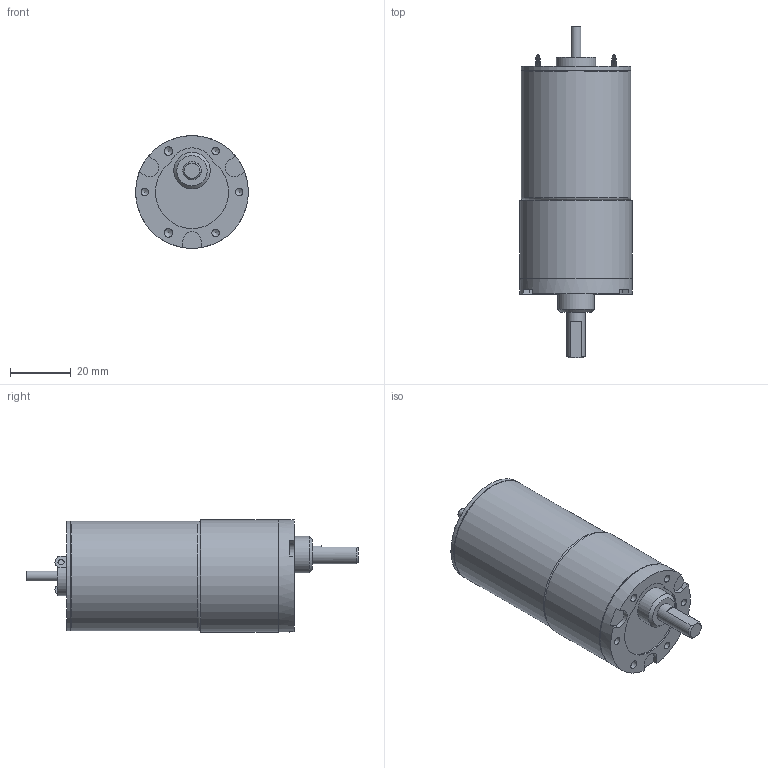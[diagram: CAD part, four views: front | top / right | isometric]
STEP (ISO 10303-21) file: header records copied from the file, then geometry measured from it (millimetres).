
FILE_DESCRIPTION((''),'2;1');
FILE_NAME('C:\Documents and Settings\SSEGAWA\デスクトップ\TP-3644L-KS-5.STP','2013-07-26T19:05:29',('SSEGAWA'),(''),'Autodesk Inventor 2010','Autodesk Inventor 2010','');
FILE_SCHEMA(('CONFIG_CONTROL_DESIGN'));
Length unit declared in the file: millimetre
Products named in the file (1): tp_3644l_ks_5_Shrinkwrap_1
Bounding box: 37 x 109 x 37 mm (x, y, z)
Volume: 78873.6 mm3; surface area: 12292.7 mm2
Topology: 5 solids, 5 shells, 80 faces, 181 edges, 121 vertices
Faces by surface type: plane 37, bspline 20, cylinder 19, cone 2, torus 2
Full cylindrical faces by diameter (mm): 3 x1, 3.175 x1, 3.5 x1, 6 x1, 12 x1, 13 x1, 35.6 x1, 36 x2, 36.6 x1, 37 x2
Entity records: 2254 total; most frequent: CARTESIAN_POINT 642, DIRECTION 311, ORIENTED_EDGE 242, AXIS2_PLACEMENT_3D 131, EDGE_LOOP 129, EDGE_CURVE 121, VERTEX_POINT 96, STYLED_ITEM 85
